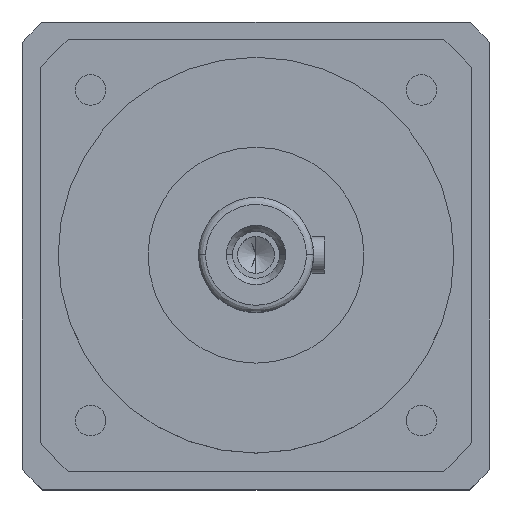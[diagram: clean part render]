
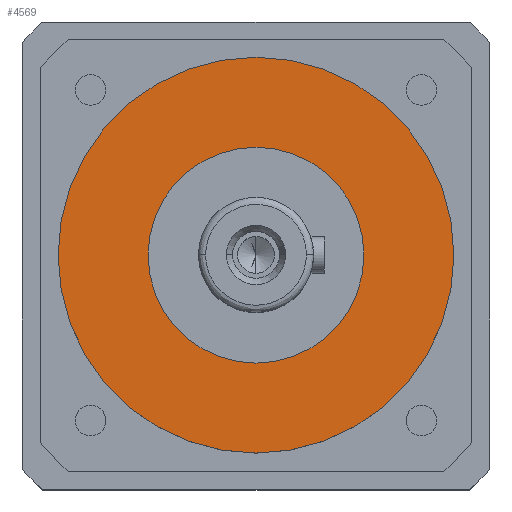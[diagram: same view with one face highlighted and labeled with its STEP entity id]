
A CAD part, top view. The second image highlights one B-rep face of the part: STEP entity #4569.
In plain terms, the highlighted planar face has unit normal (0, 0, 1).
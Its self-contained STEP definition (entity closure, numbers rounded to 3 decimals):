
#180 = VERTEX_POINT ( 'NONE', #2403 ) ;
#220 = EDGE_LOOP ( 'NONE', ( #8421, #35952 ) ) ;
#1197 = DIRECTION ( 'NONE',  ( -1., 0., 0. ) ) ;
#1655 = CIRCLE ( 'NONE', #22892, 30. ) ;
#2403 = CARTESIAN_POINT ( 'NONE',  ( -55., 0., -52. ) ) ;
#3022 = CIRCLE ( 'NONE', #11582, 55. ) ;
#3365 = AXIS2_PLACEMENT_3D ( 'NONE', #24247, #4081, #27622 ) ;
#4081 = DIRECTION ( 'NONE',  ( 0., 0., -1. ) ) ;
#4569 = ADVANCED_FACE ( 'NONE', ( #21156, #22221 ), #34880, .F. ) ;
#6666 = EDGE_CURVE ( 'NONE', #14958, #27223, #1655, .T. ) ;
#7381 = CIRCLE ( 'NONE', #13557, 30. ) ;
#8421 = ORIENTED_EDGE ( 'NONE', *, *, #34733, .F. ) ;
#10230 = DIRECTION ( 'NONE',  ( 0., 0., 1. ) ) ;
#11227 = CARTESIAN_POINT ( 'NONE',  ( 0., 0., -52. ) ) ;
#11401 = CARTESIAN_POINT ( 'NONE',  ( -30., 0., -52. ) ) ;
#11582 = AXIS2_PLACEMENT_3D ( 'NONE', #11227, #34899, #14630 ) ;
#13286 = DIRECTION ( 'NONE',  ( 0., 0., 1. ) ) ;
#13557 = AXIS2_PLACEMENT_3D ( 'NONE', #30462, #10230, #33885 ) ;
#14630 = DIRECTION ( 'NONE',  ( 1., 0., 0. ) ) ;
#14958 = VERTEX_POINT ( 'NONE', #11401 ) ;
#17665 = VERTEX_POINT ( 'NONE', #39066 ) ;
#21156 = FACE_OUTER_BOUND ( 'NONE', #220, .T. ) ;
#21392 = DIRECTION ( 'NONE',  ( 0., 0., -1. ) ) ;
#22221 = FACE_BOUND ( 'NONE', #25581, .T. ) ;
#22892 = AXIS2_PLACEMENT_3D ( 'NONE', #33538, #13286, #36953 ) ;
#24247 = CARTESIAN_POINT ( 'NONE',  ( 0., 0., -52. ) ) ;
#25149 = ORIENTED_EDGE ( 'NONE', *, *, #42152, .F. ) ;
#25581 = EDGE_LOOP ( 'NONE', ( #25149, #41898 ) ) ;
#27093 = CARTESIAN_POINT ( 'NONE',  ( 30., 0., -52. ) ) ;
#27223 = VERTEX_POINT ( 'NONE', #27093 ) ;
#27622 = DIRECTION ( 'NONE',  ( 1., 0., 0. ) ) ;
#30462 = CARTESIAN_POINT ( 'NONE',  ( 0., 0., -52. ) ) ;
#33538 = CARTESIAN_POINT ( 'NONE',  ( 0., 0., -52. ) ) ;
#33885 = DIRECTION ( 'NONE',  ( 1., 0., 0. ) ) ;
#34733 = EDGE_CURVE ( 'NONE', #17665, #180, #3022, .T. ) ;
#34880 = PLANE ( 'NONE',  #39321 ) ;
#34899 = DIRECTION ( 'NONE',  ( 0., 0., -1. ) ) ;
#35952 = ORIENTED_EDGE ( 'NONE', *, *, #40775, .F. ) ;
#36953 = DIRECTION ( 'NONE',  ( 1., 0., 0. ) ) ;
#38286 = CARTESIAN_POINT ( 'NONE',  ( 0., 30., -52. ) ) ;
#39066 = CARTESIAN_POINT ( 'NONE',  ( 55., 0., -52. ) ) ;
#39179 = CIRCLE ( 'NONE', #3365, 55. ) ;
#39321 = AXIS2_PLACEMENT_3D ( 'NONE', #38286, #21392, #1197 ) ;
#40775 = EDGE_CURVE ( 'NONE', #180, #17665, #39179, .T. ) ;
#41898 = ORIENTED_EDGE ( 'NONE', *, *, #6666, .F. ) ;
#42152 = EDGE_CURVE ( 'NONE', #27223, #14958, #7381, .T. ) ;
